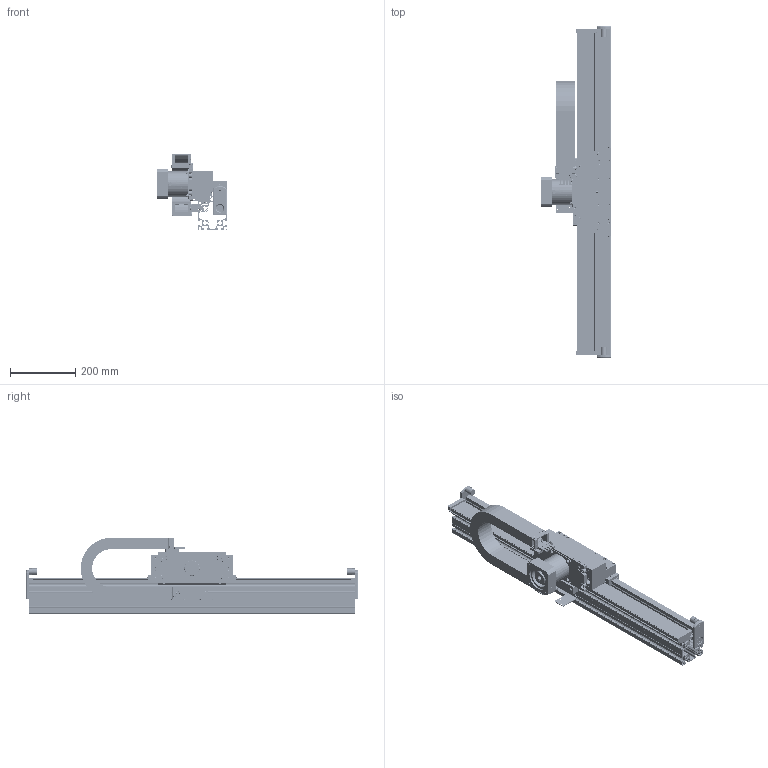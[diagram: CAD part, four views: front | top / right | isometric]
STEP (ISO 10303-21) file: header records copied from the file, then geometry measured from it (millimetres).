
FILE_DESCRIPTION( ( '' ), ' ' );
FILE_NAME( '/vol/tmp/translate-11218105019731517094/5c7eaf27cb3f0b1ca4a5fac2.step', '2019-03-05T17:17:28', ( '' ), ( '' ), ' ', ' ', ' ' );
FILE_SCHEMA( ( 'AUTOMOTIVE_DESIGN { 1 0 10303 214 1 1 1 1 }' ) );
Length unit declared in the file: metre
Products named in the file (92): FASTENERS <4>; 100001-073 M6 X 12 SS SHCS; 102811-002 M6 T-NUT; RAIL FASTENERS <16>; 100001-8065 M5-.80 X 25 ALLOY SHCS; 102684-001 BOSCH 10mm T-BLOCK M5; 20mm BEARING RAIL CAP; FASTENERS <2>; FASTENERS <5>; FASTENERS <3>; RAIL FASTENERS <1>; RAIL FASTENERS <4>; RAIL FASTENERS <17>; RAIL FASTENERS <3>; FASTENERS <1>; RAIL FASTENERS <2>; RAIL FASTENERS <6>; RAIL FASTENERS <7>; RAIL FASTENERS <10>; RAIL FASTENERS <13>; RAIL FASTENERS <15>; RAIL FASTENERS <9>; RAIL FASTENERS <12>; RAIL FASTENERS <5>; RAIL FASTENERS <11>; RAIL FASTENERS <14>; RAIL FASTENERS <8>; RAIL <1>; 102732-990 20mm STANDARD GUIDE RAIL; 106888-001 20mm RAIL COVER; IGUS E6-29-040 END BRACKET (1) <2>; iguse6-29-040-1; iguse6-29-040-3(Default); iguse6-29-040-2; iguse6-29-040-4(Default); IGUS E6-29-040 END BRACKET (1) <1>; TRAY <1>; 104481-1000 SBL-H BELT TRAY; 102610-006 VHB TAPE 50mm; 103072-001 T10 X 50mm BELTING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
Assembly tree (211 placements, depth 5):
  Assem1
    E6-29-40 LINKS
    103072-001 T10 X 50mm BELTING
    PLQE080-005-TEKNIC34 MOUNT <1>
      100011-8047 M6-1.0 X 20 ALLOY FHCS  x4
      100003-006 M8 SS F/W  x4
      100001-086 M8-1.25 X 20 SS SHCS  x4
      100007-001 M6 SS HEX NUT  x4
      105326-006 SBL-H NEUGART GEARBOX MOTOR MOUNT PLATE
      100013-072 M6 X 12 SS SET SCREW  x2
      PLQE080-005-TEKNIC34 & PINION <1>
        PLQE080-005-TEKNIC34
        100013-079 M5 X 10 SS SET SCREW  x2
        103795-008 SBL-H PINION 20mm BORE 6mm KEY LOCK
    LEFT <1>
      100011-XXX M6-1.0 X 14 SS FHCS  x2
      104453-update SBL-H UPPER E-CHAIN BRACKET(Default)
      100001-074 M6-1.0 X 16 SS  SHCS
      100006-028 M6-1.0 X 12 SS BHCS
      100001-052 M4-.70 X 12 SS SHCS  x2
      103862 IGUS 2030-ZB TIE WRAP PLATE
      IGUS E6-29-040 END BRACKET (1) <1>
        iguse6-29-040-1
        iguse6-29-040-3(Default)
        iguse6-29-040-2
        iguse6-29-040-4(Default)
    1000 CHASSIS <1>
      102915-1000  90-SERIES PROFILE 90X90
      RAIL <1>
        102732-990 20mm STANDARD GUIDE RAIL
        106888-001 20mm RAIL COVER
        RAIL FASTENERS <13>
          20mm BEARING RAIL CAP
          102684-001 BOSCH 10mm T-BLOCK M5
          100001-8065 M5-.80 X 25 ALLOY SHCS
        RAIL FASTENERS <12>
          100001-8065 M5-.80 X 25 ALLOY SHCS
          20mm BEARING RAIL CAP
          102684-001 BOSCH 10mm T-BLOCK M5
        RAIL FASTENERS <1>
          102684-001 BOSCH 10mm T-BLOCK M5
          100001-8065 M5-.80 X 25 ALLOY SHCS
          20mm BEARING RAIL CAP
        RAIL FASTENERS <9>
          102684-001 BOSCH 10mm T-BLOCK M5
          100001-8065 M5-.80 X 25 ALLOY SHCS
          20mm BEARING RAIL CAP
        RAIL FASTENERS <3>
          20mm BEARING RAIL CAP
          102684-001 BOSCH 10mm T-BLOCK M5
          100001-8065 M5-.80 X 25 ALLOY SHCS
        RAIL FASTENERS <6>
          20mm BEARING RAIL CAP
          100001-8065 M5-.80 X 25 ALLOY SHCS
          102684-001 BOSCH 10mm T-BLOCK M5
        RAIL FASTENERS <4>
          20mm BEARING RAIL CAP
          100001-8065 M5-.80 X 25 ALLOY SHCS
          102684-001 BOSCH 10mm T-BLOCK M5
        RAIL FASTENERS <7>
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Bounding box: 216.12 x 1019.05 x 234.79 mm (x, y, z)
Volume: 6410611.9 mm3; surface area: 2875724.8 mm2
Topology: 174 solids, 175 shells, 4724 faces, 12143 edges, 7998 vertices
Faces by surface type: plane 2835, cylinder 1439, cone 354, torus 83, sphere 9, bspline 4
Full cylindrical faces by diameter (mm): 2.5 x24, 2.54 x2, 2.6 x4, 2.66 x4, 3 x8, 3.3 x2, 3.6 x2, 3.988 x6, 4 x4, 4.2 x8, 4.216 x16, 4.5 x14, 5 x51, 5.004 x27, 5.1 x1, 5.105 x2, 5.5 x19, 5.8 x8, 5.867 x2, 5.994 x15, 6 x26, 6.2 x4, 6.4 x1, 6.5 x6, 6.6 x5, 6.8 x6, 6.858 x2, 7 x6, 7.112 x5, 7.5 x8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
Entity records: 105253 total; most frequent: CARTESIAN_POINT 17209, DIRECTION 14003, ORIENTED_EDGE 13072, EDGE_CURVE 6536, AXIS2_PLACEMENT_3D 4937, VERTEX_POINT 4569, LINE 4129, VECTOR 4129
